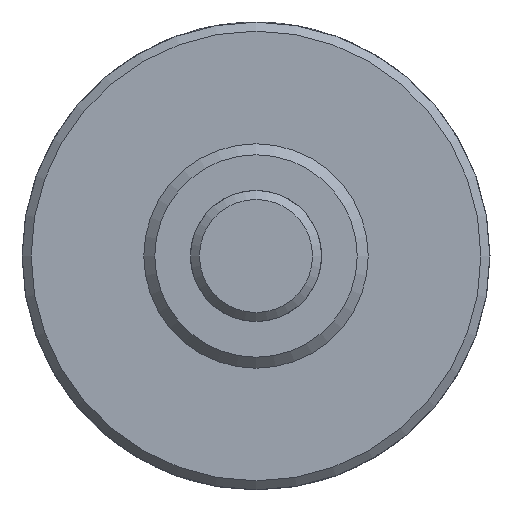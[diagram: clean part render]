
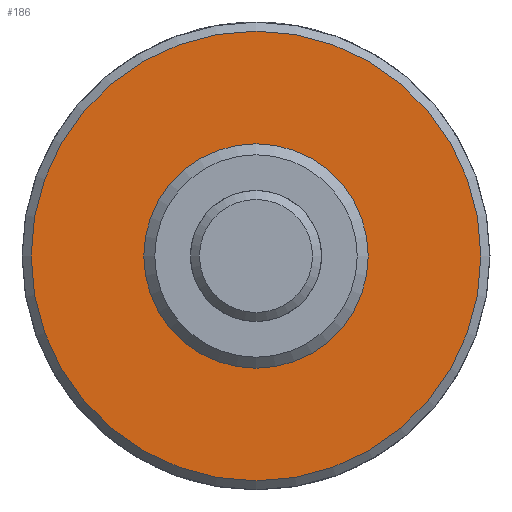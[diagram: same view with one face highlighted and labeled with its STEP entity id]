
A CAD part, left-side view. The second image highlights one B-rep face of the part: STEP entity #186.
In plain terms, the highlighted planar face has unit normal (-1, 0, 0).
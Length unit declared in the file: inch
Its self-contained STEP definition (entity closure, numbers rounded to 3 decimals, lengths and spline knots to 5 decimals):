
#186 = ADVANCED_FACE( '', ( #377, #378 ), #379, .F. );
#377 = FACE_OUTER_BOUND( '', #573, .T. );
#378 = FACE_BOUND( '', #574, .T. );
#379 = PLANE( '', #575 );
#573 = EDGE_LOOP( '', ( #874 ) );
#574 = EDGE_LOOP( '', ( #875 ) );
#575 = AXIS2_PLACEMENT_3D( '', #876, #877, #878 );
#874 = ORIENTED_EDGE( '', *, *, #1069, .F. );
#875 = ORIENTED_EDGE( '', *, *, #1070, .T. );
#876 = CARTESIAN_POINT( '', ( 0.625, 0.3745, 0. ) );
#877 = DIRECTION( '', ( 1., 0., 0. ) );
#878 = DIRECTION( '', ( 0., 0., -1. ) );
#1069 = EDGE_CURVE( '', #1238, #1238, #1239, .T. );
#1070 = EDGE_CURVE( '', #1240, #1240, #1241, .T. );
#1238 = VERTEX_POINT( '', #1520 );
#1239 = CIRCLE( '', #1521, 0.7515 );
#1240 = VERTEX_POINT( '', #1522 );
#1241 = CIRCLE( '', #1523, 0.3745 );
#1520 = CARTESIAN_POINT( '', ( 0.625, 0., -0.7515 ) );
#1521 = AXIS2_PLACEMENT_3D( '', #1678, #1679, #1680 );
#1522 = CARTESIAN_POINT( '', ( 0.625, 0., -0.3745 ) );
#1523 = AXIS2_PLACEMENT_3D( '', #1681, #1682, #1683 );
#1678 = CARTESIAN_POINT( '', ( 0.625, 0., 0. ) );
#1679 = DIRECTION( '', ( 1., 0., 0. ) );
#1680 = DIRECTION( '', ( 0., 0., -1. ) );
#1681 = CARTESIAN_POINT( '', ( 0.625, 0., 0. ) );
#1682 = DIRECTION( '', ( 1., 0., 0. ) );
#1683 = DIRECTION( '', ( 0., 0., -1. ) );
